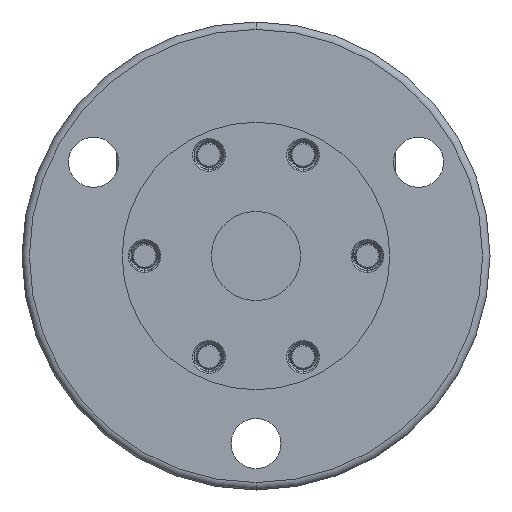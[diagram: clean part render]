
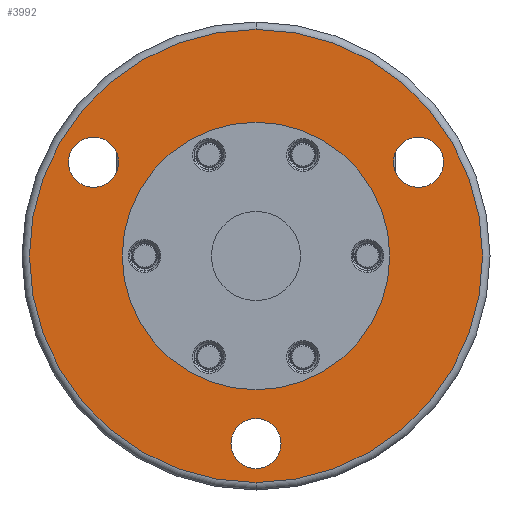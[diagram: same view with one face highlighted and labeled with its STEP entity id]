
A CAD part, front view. The second image highlights one B-rep face of the part: STEP entity #3992.
In plain terms, the highlighted planar face has unit normal (0, -1, 0).
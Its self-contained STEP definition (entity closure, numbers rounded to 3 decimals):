
#176 = CARTESIAN_POINT ( 'NONE',  ( 0., 0., 0. ) ) ;
#279 = CARTESIAN_POINT ( 'NONE',  ( 0., 0., 0. ) ) ;
#392 = EDGE_CURVE ( 'NONE', #2812, #4868, #5179, .T. ) ;
#1010 = CARTESIAN_POINT ( 'NONE',  ( 43.734, 0., 25.25 ) ) ;
#1081 = ORIENTED_EDGE ( 'NONE', *, *, #4799, .T. ) ;
#1392 = EDGE_CURVE ( 'NONE', #16496, #13111, #13403, .T. ) ;
#1542 = DIRECTION ( 'NONE',  ( 0., 0., 1. ) ) ;
#1644 = DIRECTION ( 'NONE',  ( 0., 0., -1. ) ) ;
#1902 = EDGE_LOOP ( 'NONE', ( #7383, #1081 ) ) ;
#2240 = EDGE_LOOP ( 'NONE', ( #5747, #6080 ) ) ;
#2270 = AXIS2_PLACEMENT_3D ( 'NONE', #13819, #5726, #15171 ) ;
#2314 = DIRECTION ( 'NONE',  ( 0., 1., 0. ) ) ;
#2350 = DIRECTION ( 'NONE',  ( -0.866, 0., -0.5 ) ) ;
#2587 = ORIENTED_EDGE ( 'NONE', *, *, #392, .T. ) ;
#2626 = FACE_BOUND ( 'NONE', #1902, .T. ) ;
#2708 = AXIS2_PLACEMENT_3D ( 'NONE', #14628, #6536, #15983 ) ;
#2781 = EDGE_LOOP ( 'NONE', ( #11196, #5917 ) ) ;
#2808 = AXIS2_PLACEMENT_3D ( 'NONE', #6495, #15937, #7843 ) ;
#2812 = VERTEX_POINT ( 'NONE', #11676 ) ;
#3028 = CIRCLE ( 'NONE', #11185, 6.75 ) ;
#3451 = DIRECTION ( 'NONE',  ( 0., 1., 0. ) ) ;
#3937 = VERTEX_POINT ( 'NONE', #7674 ) ;
#3992 = ADVANCED_FACE ( 'NONE', ( #12953, #6216, #6635, #2626, #9401 ), #5071, .T. ) ;
#4660 = AXIS2_PLACEMENT_3D ( 'NONE', #11538, #3451, #12875 ) ;
#4731 = CARTESIAN_POINT ( 'NONE',  ( 0., 0., -57.25 ) ) ;
#4799 = EDGE_CURVE ( 'NONE', #8275, #10380, #3028, .T. ) ;
#4868 = VERTEX_POINT ( 'NONE', #9308 ) ;
#4995 = CARTESIAN_POINT ( 'NONE',  ( 0., 0., -61. ) ) ;
#5008 = EDGE_CURVE ( 'NONE', #4868, #2812, #5347, .T. ) ;
#5011 = CARTESIAN_POINT ( 'NONE',  ( -49.58, 0., 28.625 ) ) ;
#5071 = PLANE ( 'NONE',  #2808 ) ;
#5179 = CIRCLE ( 'NONE', #11657, 6.75 ) ;
#5245 = CARTESIAN_POINT ( 'NONE',  ( 0., 0., 36. ) ) ;
#5347 = CIRCLE ( 'NONE', #2708, 6.75 ) ;
#5680 = AXIS2_PLACEMENT_3D ( 'NONE', #10424, #2314, #11771 ) ;
#5726 = DIRECTION ( 'NONE',  ( 0., 1., 0. ) ) ;
#5747 = ORIENTED_EDGE ( 'NONE', *, *, #1392, .T. ) ;
#5824 = ORIENTED_EDGE ( 'NONE', *, *, #5008, .T. ) ;
#5917 = ORIENTED_EDGE ( 'NONE', *, *, #6811, .T. ) ;
#6073 = DIRECTION ( 'NONE',  ( 0., 1., 0. ) ) ;
#6080 = ORIENTED_EDGE ( 'NONE', *, *, #9902, .T. ) ;
#6216 = FACE_BOUND ( 'NONE', #6680, .T. ) ;
#6374 = EDGE_CURVE ( 'NONE', #3937, #15630, #14616, .T. ) ;
#6495 = CARTESIAN_POINT ( 'NONE',  ( -36., 0., 0. ) ) ;
#6536 = DIRECTION ( 'NONE',  ( 0., 1., 0. ) ) ;
#6635 = FACE_BOUND ( 'NONE', #2240, .T. ) ;
#6680 = EDGE_LOOP ( 'NONE', ( #5824, #2587 ) ) ;
#6811 = EDGE_CURVE ( 'NONE', #12477, #16297, #13955, .T. ) ;
#7340 = AXIS2_PLACEMENT_3D ( 'NONE', #279, #9738, #1644 ) ;
#7342 = CARTESIAN_POINT ( 'NONE',  ( 0., 0., 0. ) ) ;
#7383 = ORIENTED_EDGE ( 'NONE', *, *, #17117, .T. ) ;
#7674 = CARTESIAN_POINT ( 'NONE',  ( 0., 0., -36. ) ) ;
#7843 = DIRECTION ( 'NONE',  ( 0., 0., -1. ) ) ;
#7874 = CARTESIAN_POINT ( 'NONE',  ( 0., 0., -50.5 ) ) ;
#8275 = VERTEX_POINT ( 'NONE', #4731 ) ;
#8700 = DIRECTION ( 'NONE',  ( 0., 0., -1. ) ) ;
#9251 = DIRECTION ( 'NONE',  ( 0., 0., 1. ) ) ;
#9308 = CARTESIAN_POINT ( 'NONE',  ( 37.889, 0., 21.875 ) ) ;
#9401 = FACE_BOUND ( 'NONE', #14888, .T. ) ;
#9640 = DIRECTION ( 'NONE',  ( 0., 1., 0. ) ) ;
#9738 = DIRECTION ( 'NONE',  ( 0., -1., 0. ) ) ;
#9902 = EDGE_CURVE ( 'NONE', #13111, #16496, #14037, .T. ) ;
#10340 = AXIS2_PLACEMENT_3D ( 'NONE', #7342, #16806, #8700 ) ;
#10380 = VERTEX_POINT ( 'NONE', #14893 ) ;
#10424 = CARTESIAN_POINT ( 'NONE',  ( 0., 0., -50.5 ) ) ;
#10468 = DIRECTION ( 'NONE',  ( 0., 1., 0. ) ) ;
#10723 = ORIENTED_EDGE ( 'NONE', *, *, #12562, .T. ) ;
#11185 = AXIS2_PLACEMENT_3D ( 'NONE', #7874, #17334, #9251 ) ;
#11196 = ORIENTED_EDGE ( 'NONE', *, *, #16043, .T. ) ;
#11397 = ORIENTED_EDGE ( 'NONE', *, *, #6374, .T. ) ;
#11538 = CARTESIAN_POINT ( 'NONE',  ( -43.734, 0., 25.25 ) ) ;
#11657 = AXIS2_PLACEMENT_3D ( 'NONE', #1010, #10468, #2350 ) ;
#11676 = CARTESIAN_POINT ( 'NONE',  ( 49.58, 0., 28.625 ) ) ;
#11771 = DIRECTION ( 'NONE',  ( 0., 0., 1. ) ) ;
#11961 = CIRCLE ( 'NONE', #10340, 61. ) ;
#12254 = AXIS2_PLACEMENT_3D ( 'NONE', #176, #9640, #1542 ) ;
#12477 = VERTEX_POINT ( 'NONE', #17437 ) ;
#12562 = EDGE_CURVE ( 'NONE', #15630, #3937, #16312, .T. ) ;
#12875 = DIRECTION ( 'NONE',  ( 0.866, 0., -0.5 ) ) ;
#12953 = FACE_OUTER_BOUND ( 'NONE', #2781, .T. ) ;
#13111 = VERTEX_POINT ( 'NONE', #5011 ) ;
#13367 = CARTESIAN_POINT ( 'NONE',  ( -37.889, 0., 21.875 ) ) ;
#13403 = CIRCLE ( 'NONE', #16067, 6.75 ) ;
#13819 = CARTESIAN_POINT ( 'NONE',  ( 0., 0., 0. ) ) ;
#13955 = CIRCLE ( 'NONE', #7340, 61. ) ;
#14037 = CIRCLE ( 'NONE', #4660, 6.75 ) ;
#14153 = CARTESIAN_POINT ( 'NONE',  ( -43.734, 0., 25.25 ) ) ;
#14254 = CIRCLE ( 'NONE', #5680, 6.75 ) ;
#14616 = CIRCLE ( 'NONE', #2270, 36. ) ;
#14628 = CARTESIAN_POINT ( 'NONE',  ( 43.734, 0., 25.25 ) ) ;
#14888 = EDGE_LOOP ( 'NONE', ( #10723, #11397 ) ) ;
#14893 = CARTESIAN_POINT ( 'NONE',  ( 0., 0., -43.75 ) ) ;
#15171 = DIRECTION ( 'NONE',  ( 0., 0., 1. ) ) ;
#15501 = DIRECTION ( 'NONE',  ( 0.866, 0., -0.5 ) ) ;
#15630 = VERTEX_POINT ( 'NONE', #5245 ) ;
#15937 = DIRECTION ( 'NONE',  ( 0., -1., 0. ) ) ;
#15983 = DIRECTION ( 'NONE',  ( -0.866, 0., -0.5 ) ) ;
#16043 = EDGE_CURVE ( 'NONE', #16297, #12477, #11961, .T. ) ;
#16067 = AXIS2_PLACEMENT_3D ( 'NONE', #14153, #6073, #15501 ) ;
#16297 = VERTEX_POINT ( 'NONE', #4995 ) ;
#16312 = CIRCLE ( 'NONE', #12254, 36. ) ;
#16496 = VERTEX_POINT ( 'NONE', #13367 ) ;
#16806 = DIRECTION ( 'NONE',  ( 0., -1., 0. ) ) ;
#17117 = EDGE_CURVE ( 'NONE', #10380, #8275, #14254, .T. ) ;
#17334 = DIRECTION ( 'NONE',  ( 0., 1., 0. ) ) ;
#17437 = CARTESIAN_POINT ( 'NONE',  ( 0., 0., 61. ) ) ;
